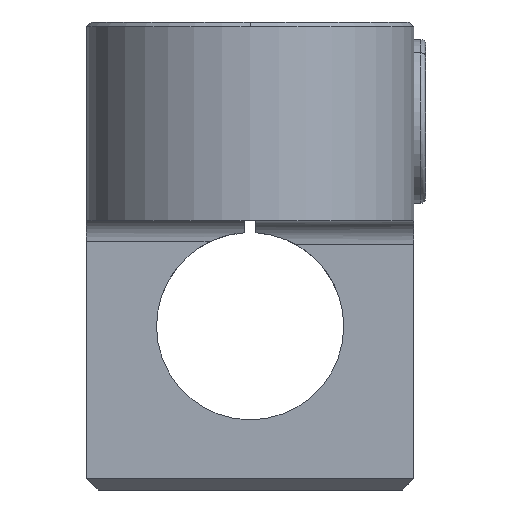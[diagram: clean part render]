
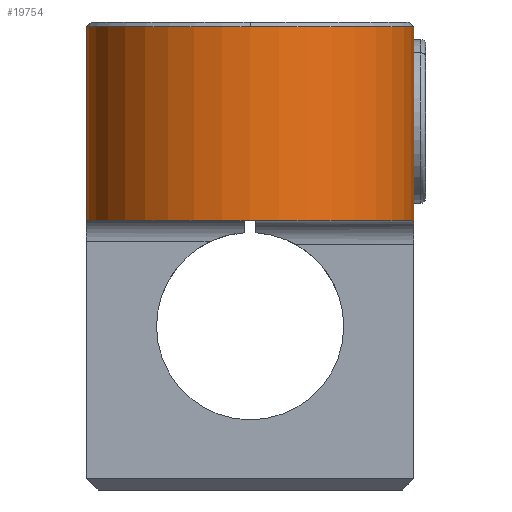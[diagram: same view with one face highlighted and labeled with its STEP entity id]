
A CAD part, left-side view. The second image highlights one B-rep face of the part: STEP entity #19754.
In plain terms, the highlighted cylindrical face has radius 7 mm (diameter 14 mm), a partial arc.
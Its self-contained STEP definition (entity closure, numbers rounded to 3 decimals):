
#747 = EDGE_CURVE ( 'NONE', #6051, #1193, #7964, .T. ) ;
#890 = EDGE_CURVE ( 'NONE', #1193, #18052, #1823, .T. ) ;
#1193 = VERTEX_POINT ( 'NONE', #18379 ) ;
#1376 = ORIENTED_EDGE ( 'NONE', *, *, #20148, .T. ) ;
#1823 = LINE ( 'NONE', #18479, #6562 ) ;
#2522 = DIRECTION ( 'NONE',  ( 0., 0., -1. ) ) ;
#2563 = VECTOR ( 'NONE', #7412, 1000. ) ;
#2725 = ORIENTED_EDGE ( 'NONE', *, *, #14523, .F. ) ;
#3035 = DIRECTION ( 'NONE',  ( 0., 0., -1. ) ) ;
#3365 = CARTESIAN_POINT ( 'NONE',  ( -37.079, 37.989, 9.8 ) ) ;
#3844 = ORIENTED_EDGE ( 'NONE', *, *, #13520, .T. ) ;
#5187 = DIRECTION ( 'NONE',  ( 0., 0., -1. ) ) ;
#5202 = DIRECTION ( 'NONE',  ( -1., 0., 0. ) ) ;
#5624 = CARTESIAN_POINT ( 'NONE',  ( -44.079, 37.989, 9.8 ) ) ;
#6038 = DIRECTION ( 'NONE',  ( 0., 0., 1. ) ) ;
#6051 = VERTEX_POINT ( 'NONE', #16668 ) ;
#6562 = VECTOR ( 'NONE', #6038, 1000. ) ;
#6858 = CARTESIAN_POINT ( 'NONE',  ( -37.079, 37.989, 9.8 ) ) ;
#7412 = DIRECTION ( 'NONE',  ( 0., 0., -1. ) ) ;
#7964 = CIRCLE ( 'NONE', #17557, 7. ) ;
#7982 = AXIS2_PLACEMENT_3D ( 'NONE', #13739, #3035, #15519 ) ;
#8220 = EDGE_LOOP ( 'NONE', ( #1376, #3844, #13030, #10295, #2725 ) ) ;
#8786 = VERTEX_POINT ( 'NONE', #5624 ) ;
#9449 = CARTESIAN_POINT ( 'NONE',  ( -37.079, 30.989, 9.8 ) ) ;
#10295 = ORIENTED_EDGE ( 'NONE', *, *, #747, .F. ) ;
#10868 = CIRCLE ( 'NONE', #12551, 7. ) ;
#11079 = DIRECTION ( 'NONE',  ( 0., 1., 0. ) ) ;
#12312 = CARTESIAN_POINT ( 'NONE',  ( -37.079, 37.989, 1.5 ) ) ;
#12551 = AXIS2_PLACEMENT_3D ( 'NONE', #3365, #15828, #5202 ) ;
#13030 = ORIENTED_EDGE ( 'NONE', *, *, #890, .F. ) ;
#13520 = EDGE_CURVE ( 'NONE', #8786, #18052, #10868, .T. ) ;
#13739 = CARTESIAN_POINT ( 'NONE',  ( -37.079, 37.989, 9.8 ) ) ;
#14523 = EDGE_CURVE ( 'NONE', #19926, #6051, #16181, .T. ) ;
#15519 = DIRECTION ( 'NONE',  ( -1., 0., 0. ) ) ;
#15828 = DIRECTION ( 'NONE',  ( 0., 0., -1. ) ) ;
#16181 = LINE ( 'NONE', #18087, #2563 ) ;
#16294 = CYLINDRICAL_SURFACE ( 'NONE', #18886, 7. ) ;
#16668 = CARTESIAN_POINT ( 'NONE',  ( -37.079, 30.989, 1.5 ) ) ;
#17557 = AXIS2_PLACEMENT_3D ( 'NONE', #12312, #2522, #11079 ) ;
#17587 = DIRECTION ( 'NONE',  ( 0., 1., 0. ) ) ;
#18052 = VERTEX_POINT ( 'NONE', #20862 ) ;
#18087 = CARTESIAN_POINT ( 'NONE',  ( -37.079, 30.989, 5.65 ) ) ;
#18379 = CARTESIAN_POINT ( 'NONE',  ( -37.079, 44.989, 1.5 ) ) ;
#18479 = CARTESIAN_POINT ( 'NONE',  ( -37.079, 44.989, 5.65 ) ) ;
#18557 = FACE_OUTER_BOUND ( 'NONE', #8220, .T. ) ;
#18886 = AXIS2_PLACEMENT_3D ( 'NONE', #6858, #5187, #17587 ) ;
#19754 = ADVANCED_FACE ( 'NONE', ( #18557 ), #16294, .T. ) ;
#19926 = VERTEX_POINT ( 'NONE', #9449 ) ;
#20099 = CIRCLE ( 'NONE', #7982, 7. ) ;
#20148 = EDGE_CURVE ( 'NONE', #19926, #8786, #20099, .T. ) ;
#20862 = CARTESIAN_POINT ( 'NONE',  ( -37.079, 44.989, 9.8 ) ) ;
